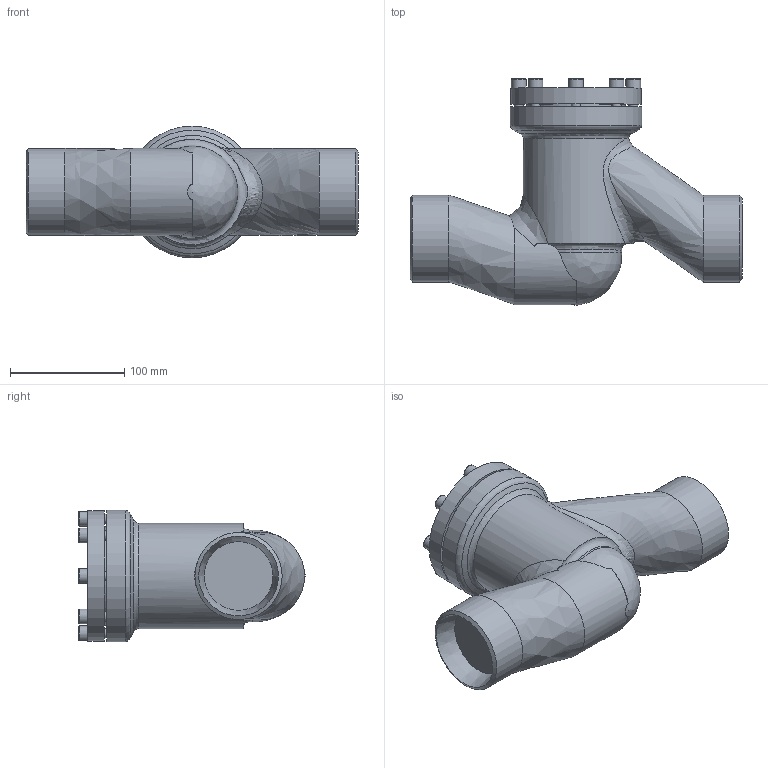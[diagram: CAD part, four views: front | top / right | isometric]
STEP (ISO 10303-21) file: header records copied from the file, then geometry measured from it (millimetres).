
FILE_DESCRIPTION((''),'2;1');
FILE_NAME('Y:\Home\AWP_CAD (2D+3D-Ansicht)\CAD Drawings\3D_STEP\RV D AE\RV D AE 28G00-65 PS25.stp','2012-08-27T13:15:36',('Lempe.Ha'),(''),'Autodesk Inventor 2012','Autodesk Inventor 2012','');
FILE_SCHEMA(('AUTOMOTIVE_DESIGN { 1 0 10303 214 1 1 1 1 }'));
Length unit declared in the file: millimetre
Products named in the file (4): 28G00C17A5A00000; 16G00B17.5034004; 28300B17.5141004; DIN 912 - ersetzt durch DIN EN ISO 4762 M8 x 25
Assembly tree (10 placements, depth 2):
  28G00C17A5A00000
    16G00B17.5034004
    28300B17.5141004
    DIN 912 - ersetzt durch DIN EN ISO 4762 M8 x 25  x8
Bounding box: 290 x 197.7 x 115 mm (x, y, z)
Volume: 1598855.5 mm3; surface area: 211906.8 mm2
Topology: 10 solids, 10 shells, 202 faces, 456 edges, 288 vertices
Faces by surface type: plane 86, cylinder 50, cone 38, torus 21, bspline 7
Full cylindrical faces by diameter (mm): 6.647 x8, 8 x8, 9 x8, 13 x8, 56 x1, 65 x2, 68 x1, 69 x1, 75 x1, 76 x2, 76.1 x2, 80.333 x1, 86 x2, 114 x1, 115 x1
Entity records: 3274 total; most frequent: CARTESIAN_POINT 1261, DIRECTION 416, ORIENTED_EDGE 278, AXIS2_PLACEMENT_3D 202, EDGE_LOOP 186, EDGE_CURVE 139, VERTEX_POINT 123, CIRCLE 98
